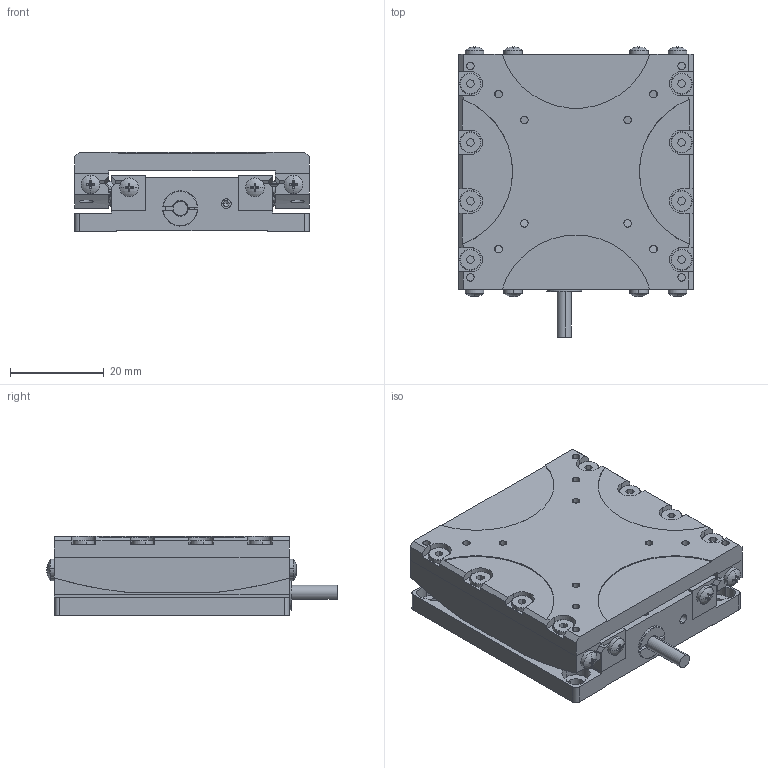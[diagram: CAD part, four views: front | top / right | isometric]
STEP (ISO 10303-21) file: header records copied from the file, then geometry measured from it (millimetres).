
FILE_DESCRIPTION (( 'STEP AP214' ), '1' );
FILE_NAME ('N70直线压电马达（简化）.STEP', '2024-10-15T06:20:58', ( 'Sky123.Org' ), ( 'Sky123.Org' ), 'SwSTEP 2.0', 'SolidWorks 2016', '' );
FILE_SCHEMA (( 'AUTOMOTIVE_DESIGN' ));
Length unit declared in the file: millimetre
Products named in the file (1): N70直线压电马达（简化）
Bounding box: 50 x 61.79 x 17 mm (x, y, z)
Volume: 35356.9 mm3; surface area: 25594.1 mm2
Topology: 61 solids, 61 shells, 1481 faces, 3377 edges, 2071 vertices
Faces by surface type: plane 688, cylinder 431, cone 226, torus 88, bspline 32, sphere 16
Entity records: 60022 total; most frequent: CARTESIAN_POINT 8988, DIRECTION 7485, ORIENTED_EDGE 6702, EDGE_CURVE 3351, AXIS2_PLACEMENT_3D 2882, VERTEX_POINT 2071, VECTOR 1721, LINE 1721
